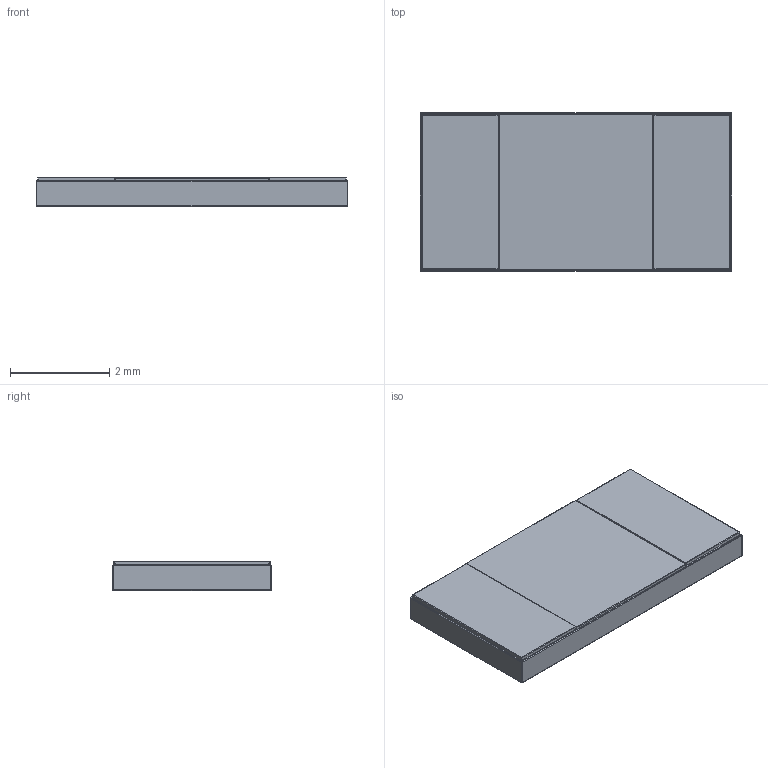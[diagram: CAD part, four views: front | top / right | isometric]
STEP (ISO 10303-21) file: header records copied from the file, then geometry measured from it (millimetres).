
FILE_DESCRIPTION(('STEP AP203'), '1');
FILE_NAME('R2-105-2512', '', ('UNSPECIFIED'), ('UNSPECIFIED'), 'ASCON STEP Converter 1.6', 'ASCON Math Kernel', '');
FILE_SCHEMA(('CONFIG_CONTROL_DESIGN'));
Length unit declared in the file: millimetre
Bounding box: 6.3 x 3.2 x 0.59 mm (x, y, z)
Volume: 11.9 mm3; surface area: 91.4 mm2
Topology: 4 solids, 5 shells, 91 faces, 207 edges, 110 vertices
Faces by surface type: plane 39, cylinder 36, sphere 16
Entity records: 3165 total; most frequent: DIRECTION 435, CARTESIAN_POINT 405, ORIENTED_EDGE 382, EDGE_CURVE 191, AXIS2_PLACEMENT_3D 156, LINE 123, VECTOR 123, VERTEX_POINT 110
